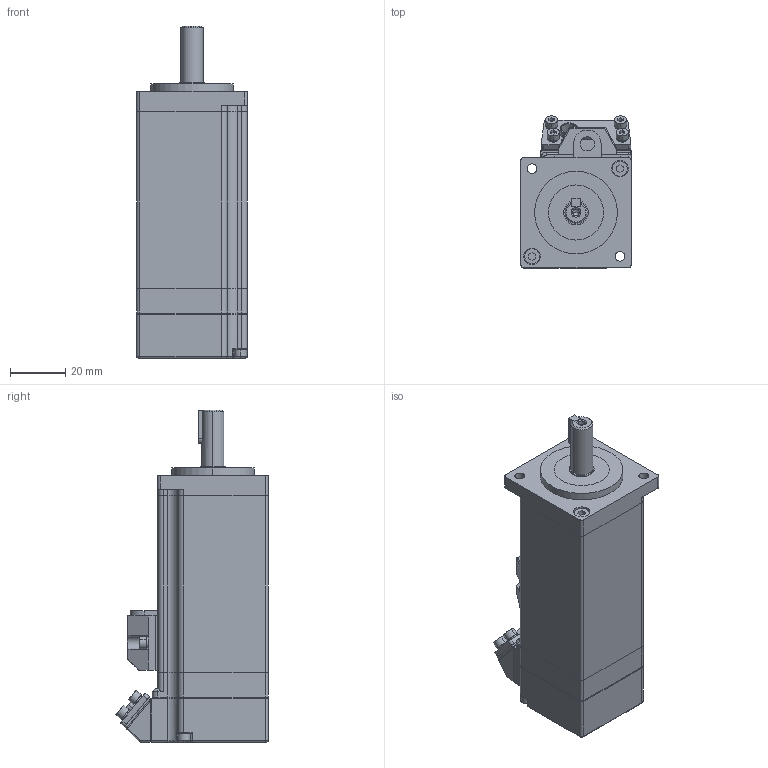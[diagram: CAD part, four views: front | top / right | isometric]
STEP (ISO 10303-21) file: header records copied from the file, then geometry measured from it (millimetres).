
FILE_DESCRIPTION (( 'STEP AP203' ), '1' );
FILE_NAME ('SMC40S-0010-30MBK-5DSU.STEP', '2020-08-10T07:48:48', ( '' ), ( '' ), 'SwSTEP 2.0', 'SolidWorks 2016', '' );
FILE_SCHEMA (( 'CONFIG_CONTROL_DESIGN' ));
Length unit declared in the file: millimetre
Products named in the file (24): 10105010003内六角圆柱头螺钉M2.5X4; 10110060001萇埭竘盄菜; 10109010024前端盖-V1.0; 10105030018 GBT93 标准弹簧垫圈 2.5; 10110050003躇猾菜B-V1.0; 10105050031普通C型平键GBT1096-C3X3X12; SMC40S-0010-30MBK-5DSU; 10109090003晤鎢ん竘盄碟-V1.0; 207040307蛌赽-V1.0; 10109090001萇埭竘盄碟; 10105080027粣創619-8ZZ; 10105010051内六角圆柱头螺钉M2.5X20; 10109020116儂褲-V1.4; 10108030330蛌粣-V1.0; 10110060015编码器引线盒密封圈-V1.0; 207010267隅赽軞傖-V1.0; 10105080015綴粣創619-9-ZZ(NSK 699ZZ); 10109030045綴傷裔-V1.1; 10105010001内六角圆柱头螺钉M2.5X6; 10105070020嘎殤蚐猾VC9X20X3; 10109070053鎢攫欶-V1.0; 10105010027内六角圆柱头螺钉M3X12; 10105010014内六角圆柱头螺钉M3X8; 10109020031儂褲禱矗-V1.2
Assembly tree (40 placements, depth 4):
  SMC40S-0010-30MBK-5DSU
    10109010024前端盖-V1.0
    207010267隅赽軞傖-V1.0
      10109020116儂褲-V1.4
        10109020031儂褲禱矗-V1.2
      10110060001萇埭竘盄菜
      10109090001萇埭竘盄碟
      10105010001内六角圆柱头螺钉M2.5X6  x2
      10105010003内六角圆柱头螺钉M2.5X4
      10105030018 GBT93 标准弹簧垫圈 2.5  x3
    10109030045綴傷裔-V1.1
    10105080027粣創619-8ZZ
    207040307蛌赽-V1.0
      10108030330蛌粣-V1.0
    10105080015綴粣創619-9-ZZ(NSK 699ZZ)
    10105070020嘎殤蚐猾VC9X20X3
    10110050003躇猾菜B-V1.0
    10109070053鎢攫欶-V1.0
    10110060015编码器引线盒密封圈-V1.0
    10109090003晤鎢ん竘盄碟-V1.0
    10105030018 GBT93 标准弹簧垫圈 2.5  x4
    10105010001内六角圆柱头螺钉M2.5X6  x4
    10105010027内六角圆柱头螺钉M3X12  x4
    10105010051内六角圆柱头螺钉M2.5X20  x2
    10105050031普通C型平键GBT1096-C3X3X12
    10105010014内六角圆柱头螺钉M3X8  x3
Bounding box: 40 x 55.21 x 120.4 mm (x, y, z)
Volume: 73194.3 mm3; surface area: 54645.9 mm2
Topology: 37 solids, 37 shells, 963 faces, 2369 edges, 1527 vertices
Faces by surface type: cylinder 466, plane 409, cone 63, sphere 13, torus 10, bspline 2
Entity records: 25605 total; most frequent: CARTESIAN_POINT 4185, DIRECTION 4135, ORIENTED_EDGE 3674, EDGE_CURVE 1837, AXIS2_PLACEMENT_3D 1589, VERTEX_POINT 1187, LINE 957, VECTOR 957
